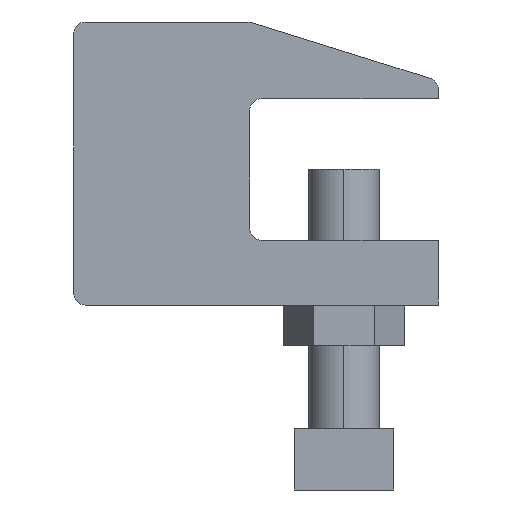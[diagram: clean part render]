
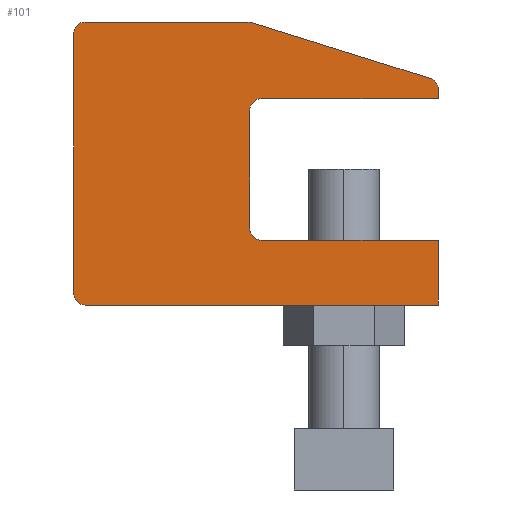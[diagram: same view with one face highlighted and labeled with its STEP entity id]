
A CAD part, front view. The second image highlights one B-rep face of the part: STEP entity #101.
In plain terms, the highlighted planar face has unit normal (0, -1, 0).
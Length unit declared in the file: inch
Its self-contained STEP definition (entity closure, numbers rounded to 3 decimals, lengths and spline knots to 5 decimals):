
#101=ADVANCED_FACE('',(#223),#224,.F.);
#223=FACE_OUTER_BOUND('',#410,.T.);
#224=PLANE('',#411);
#410=EDGE_LOOP('',(#660,#661,#662,#663,#664,#665,#666,#667,#668,#669,#670,#671,#672,#673,#674));
#411=AXIS2_PLACEMENT_3D('',#675,#676,#677);
#660=ORIENTED_EDGE('',*,*,#1004,.T.);
#661=ORIENTED_EDGE('',*,*,#1005,.T.);
#662=ORIENTED_EDGE('',*,*,#1006,.T.);
#663=ORIENTED_EDGE('',*,*,#1007,.T.);
#664=ORIENTED_EDGE('',*,*,#1008,.T.);
#665=ORIENTED_EDGE('',*,*,#1009,.T.);
#666=ORIENTED_EDGE('',*,*,#1010,.T.);
#667=ORIENTED_EDGE('',*,*,#1011,.T.);
#668=ORIENTED_EDGE('',*,*,#1012,.T.);
#669=ORIENTED_EDGE('',*,*,#1013,.T.);
#670=ORIENTED_EDGE('',*,*,#1014,.T.);
#671=ORIENTED_EDGE('',*,*,#1015,.T.);
#672=ORIENTED_EDGE('',*,*,#976,.T.);
#673=ORIENTED_EDGE('',*,*,#1016,.T.);
#674=ORIENTED_EDGE('',*,*,#1017,.T.);
#675=CARTESIAN_POINT('',(0.89766,0.,0.70518));
#676=DIRECTION('',(0.,1.0,0.));
#677=DIRECTION('',(0.0,0.,1.0));
#976=EDGE_CURVE('',#1137,#1135,#1138,.T.);
#1004=EDGE_CURVE('',#1186,#1187,#1188,.T.);
#1005=EDGE_CURVE('',#1187,#1189,#1190,.T.);
#1006=EDGE_CURVE('',#1189,#1191,#1192,.T.);
#1007=EDGE_CURVE('',#1191,#1193,#1194,.T.);
#1008=EDGE_CURVE('',#1193,#1195,#1196,.T.);
#1009=EDGE_CURVE('',#1195,#1197,#1198,.T.);
#1010=EDGE_CURVE('',#1197,#1199,#1200,.T.);
#1011=EDGE_CURVE('',#1199,#1201,#1202,.T.);
#1012=EDGE_CURVE('',#1201,#1203,#1204,.T.);
#1013=EDGE_CURVE('',#1203,#1205,#1206,.T.);
#1014=EDGE_CURVE('',#1205,#1207,#1208,.T.);
#1015=EDGE_CURVE('',#1207,#1137,#1209,.T.);
#1016=EDGE_CURVE('',#1135,#1210,#1211,.T.);
#1017=EDGE_CURVE('',#1210,#1186,#1212,.T.);
#1135=VERTEX_POINT('',#1368);
#1137=VERTEX_POINT('',#1371);
#1138=LINE('',#1372,#1373);
#1186=VERTEX_POINT('',#1458);
#1187=VERTEX_POINT('',#1459);
#1188=LINE('',#1460,#1461);
#1189=VERTEX_POINT('',#1462);
#1190=LINE('',#1463,#1464);
#1191=VERTEX_POINT('',#1465);
#1192=B_SPLINE_CURVE_WITH_KNOTS('',3,(#1466,#1467,#1468,#1469),.UNSPECIFIED.,.F.,.F.,(4,4),(0.0,1.0),.UNSPECIFIED.);
#1193=VERTEX_POINT('',#1470);
#1194=LINE('',#1471,#1472);
#1195=VERTEX_POINT('',#1473);
#1196=B_SPLINE_CURVE_WITH_KNOTS('',3,(#1474,#1475,#1476,#1477),.UNSPECIFIED.,.F.,.F.,(4,4),(0.0,1.0),.UNSPECIFIED.);
#1197=VERTEX_POINT('',#1478);
#1198=LINE('',#1479,#1480);
#1199=VERTEX_POINT('',#1481);
#1200=LINE('',#1482,#1483);
#1201=VERTEX_POINT('',#1484);
#1202=B_SPLINE_CURVE_WITH_KNOTS('',3,(#1485,#1486,#1487,#1488),.UNSPECIFIED.,.F.,.F.,(4,4),(0.0,1.0),.UNSPECIFIED.);
#1203=VERTEX_POINT('',#1489);
#1204=LINE('',#1490,#1491);
#1205=VERTEX_POINT('',#1492);
#1206=CIRCLE('',#1493,0.06252);
#1207=VERTEX_POINT('',#1494);
#1208=LINE('',#1495,#1496);
#1209=B_SPLINE_CURVE_WITH_KNOTS('',3,(#1497,#1498,#1499,#1500),.UNSPECIFIED.,.F.,.F.,(4,4),(0.0,1.0),.UNSPECIFIED.);
#1210=VERTEX_POINT('',#1501);
#1211=B_SPLINE_CURVE_WITH_KNOTS('',3,(#1502,#1503,#1504,#1505),.UNSPECIFIED.,.F.,.F.,(4,4),(0.0,1.0),.UNSPECIFIED.);
#1212=LINE('',#1506,#1507);
#1368=CARTESIAN_POINT('',(-0.0625,0.,0.0625));
#1371=CARTESIAN_POINT('',(-0.0625,0.,1.4375));
#1372=CARTESIAN_POINT('',(-0.0625,0.,1.4375));
#1373=VECTOR('',#1774,1.0);
#1458=CARTESIAN_POINT('',(1.87059,0.,0.0));
#1459=CARTESIAN_POINT('',(1.87059,0.,0.34375));
#1460=CARTESIAN_POINT('',(1.87059,0.,0.0));
#1461=VECTOR('',#1788,1.0);
#1462=CARTESIAN_POINT('',(0.93309,0.,0.34375));
#1463=CARTESIAN_POINT('',(1.87059,0.,0.34375));
#1464=VECTOR('',#1789,1.0);
#1465=CARTESIAN_POINT('',(0.87059,0.,0.40625));
#1466=CARTESIAN_POINT('',(0.93309,0.,0.34375));
#1467=CARTESIAN_POINT('',(0.89857,0.,0.34375));
#1468=CARTESIAN_POINT('',(0.87059,0.,0.37173));
#1469=CARTESIAN_POINT('',(0.87059,0.,0.40625));
#1470=CARTESIAN_POINT('',(0.87059,0.,1.03125));
#1471=CARTESIAN_POINT('',(0.87059,0.,0.40625));
#1472=VECTOR('',#1790,1.0);
#1473=CARTESIAN_POINT('',(0.93309,0.,1.09375));
#1474=CARTESIAN_POINT('',(0.87059,0.,1.03125));
#1475=CARTESIAN_POINT('',(0.87059,0.,1.06577));
#1476=CARTESIAN_POINT('',(0.89857,0.,1.09375));
#1477=CARTESIAN_POINT('',(0.93309,0.,1.09375));
#1478=CARTESIAN_POINT('',(1.87059,0.,1.09375));
#1479=CARTESIAN_POINT('',(0.93309,0.,1.09375));
#1480=VECTOR('',#1791,1.0);
#1481=CARTESIAN_POINT('',(1.87059,0.,1.14155));
#1482=CARTESIAN_POINT('',(1.87059,0.,1.09375));
#1483=VECTOR('',#1792,1.0);
#1484=CARTESIAN_POINT('',(1.82673,0.,1.20121));
#1485=CARTESIAN_POINT('',(1.87059,0.,1.14155));
#1486=CARTESIAN_POINT('',(1.87059,0.,1.16889));
#1487=CARTESIAN_POINT('',(1.85282,0.,1.19305));
#1488=CARTESIAN_POINT('',(1.82673,0.,1.20121));
#1489=CARTESIAN_POINT('',(0.87969,0.,1.49716));
#1490=CARTESIAN_POINT('',(1.82673,0.,1.20121));
#1491=VECTOR('',#1793,1.0);
#1492=CARTESIAN_POINT('',(0.86104,0.,1.5));
#1493=AXIS2_PLACEMENT_3D('',#1794,#1795,#1796);
#1494=CARTESIAN_POINT('',(0.0,0.,1.5));
#1495=CARTESIAN_POINT('',(0.86104,0.,1.5));
#1496=VECTOR('',#1797,1.0);
#1497=CARTESIAN_POINT('',(0.0,0.,1.5));
#1498=CARTESIAN_POINT('',(-0.03452,0.,1.5));
#1499=CARTESIAN_POINT('',(-0.0625,0.,1.47202));
#1500=CARTESIAN_POINT('',(-0.0625,0.,1.4375));
#1501=CARTESIAN_POINT('',(0.0,0.,0.0));
#1502=CARTESIAN_POINT('',(-0.0625,0.,0.0625));
#1503=CARTESIAN_POINT('',(-0.0625,0.,0.02798));
#1504=CARTESIAN_POINT('',(-0.03452,0.,0.0));
#1505=CARTESIAN_POINT('',(0.0,0.,0.0));
#1506=CARTESIAN_POINT('',(0.0,0.,0.0));
#1507=VECTOR('',#1798,1.0);
#1774=DIRECTION('',(0.0,0.,-1.0));
#1788=DIRECTION('',(0.0,0.,1.0));
#1789=DIRECTION('',(-1.0,0.0,0.0));
#1790=DIRECTION('',(0.0,0.,1.0));
#1791=DIRECTION('',(1.0,0.0,0.0));
#1792=DIRECTION('',(0.0,0.0,1.0));
#1793=DIRECTION('',(-0.954,0.,0.298));
#1794=CARTESIAN_POINT('',(0.86106,0.,1.43748));
#1795=DIRECTION('',(0.,-1.0,0.));
#1796=DIRECTION('',(0.298,0.,0.955));
#1797=DIRECTION('',(-1.0,0.0,0.0));
#1798=DIRECTION('',(1.0,0.0,0.0));
